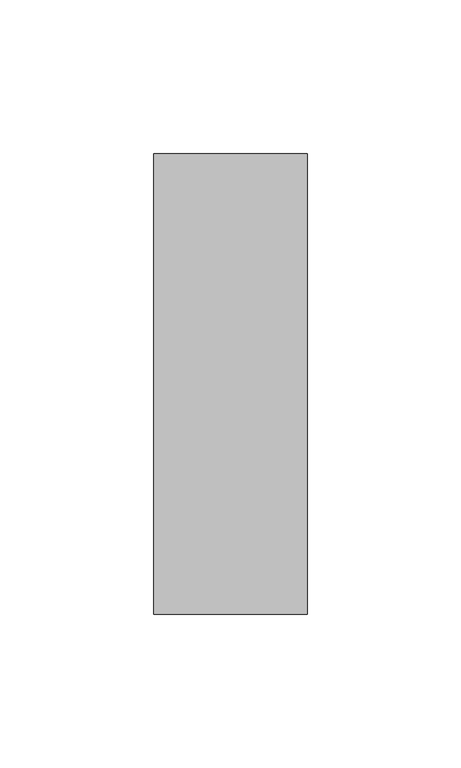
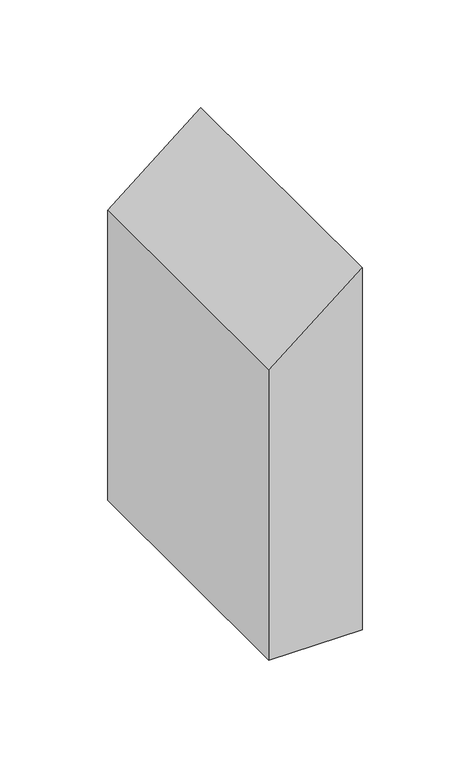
"""IFC4 building model written with IfcOpenShell, lengths in millimetres: member geometry, Прямоугольный импост : 50 x 150 мм."""

import ifcopenshell
import ifcopenshell.guid

model = None  # the IFC model being written
_history = None  # IfcOwnerHistory: only IFC2X3 demands one
_inside = {}  # id of a spatial element -> (the spatial element, [elements in it])
_under = {}  # id of a project, library or spatial element -> (it, [spatial elements below it])
_declared = {}  # id of a project -> (the project, [libraries it declares])
_typed = {}  # id of a type object -> (the type object, [elements of that type])
_made_of = {}  # id of a material, layer set ... -> (it, [elements and type objects made of it])


def new_model(schema):
    """Start an empty IFC model of exactly this schema.

    Asked for "IFC4X3", IfcOpenShell would pick the latest addendum, in which some entities
    have other attributes; the version numbers below select the first issue.
    IFC2X3 requires an IfcOwnerHistory on every rooted entity: one is made here for all.
    """
    global model, _history
    if schema == "IFC4X3":
        model = ifcopenshell.file(schema_version=(4, 3, 0, 0))
    else:
        model = ifcopenshell.file(schema=schema)
    _inside.clear()
    _under.clear()
    _declared.clear()
    _typed.clear()
    _made_of.clear()
    _history = None
    if model.schema == "IFC2X3":
        org = make("IfcOrganization", Name="unknown")
        user = make(
            "IfcPersonAndOrganization",
            ThePerson=make("IfcPerson", FamilyName="unknown"),
            TheOrganization=org,
        )
        app = make(
            "IfcApplication",
            ApplicationDeveloper=org,
            Version="unknown",
            ApplicationFullName="unknown",
            ApplicationIdentifier="unknown",
        )
        _history = make(
            "IfcOwnerHistory",
            OwningUser=user,
            OwningApplication=app,
            ChangeAction="ADDED",
            CreationDate=0,
        )
    return model


def make(cls, **values):
    """One entity of the class cls with the attributes given. An attribute that is None is left unset."""
    return model.create_entity(
        cls, **{name: value for name, value in values.items() if value is not None}
    )


def rooted(cls, **values):
    """An entity with a GlobalId (a new one), such as an element, a storey or a relation."""
    return make(cls, GlobalId=ifcopenshell.guid.new(), OwnerHistory=_history, **values)


def si_unit(unit_type, name, prefix=None):
    """IfcSIUnit, for example si_unit("LENGTHUNIT", "METRE", prefix="MILLI")."""
    return make("IfcSIUnit", UnitType=unit_type, Prefix=prefix, Name=name)


def assignment(units):
    """IfcUnitAssignment: the units of a project."""
    return None if units is None else make("IfcUnitAssignment", Units=units)


def point(xyz):
    """IfcCartesianPoint."""
    return None if xyz is None else make("IfcCartesianPoint", Coordinates=xyz)


def direction(xyz):
    """IfcDirection."""
    return None if xyz is None else make("IfcDirection", DirectionRatios=xyz)


def frame(location, z_axis=None, x_axis=None):
    """IfcAxis2Placement3D, a coordinate frame: its origin and axes. An axis left out is left unset."""
    return make(
        "IfcAxis2Placement3D",
        Location=point(location),
        Axis=direction(z_axis),
        RefDirection=direction(x_axis),
    )


def origin():
    """The frame at (0, 0, 0) with its axes left unset."""
    return frame((0.0, 0.0, 0.0))


def place(relative_to, where):
    """IfcLocalPlacement: puts the frame where relative to a parent placement (None: the world)."""
    return make(
        "IfcLocalPlacement", PlacementRelTo=relative_to, RelativePlacement=where
    )


def context(
    kind, dimensions, precision=None, world=None, true_north=None, identifier=None
):
    """IfcGeometricRepresentationContext, for example the 3D "Model" context."""
    return make(
        "IfcGeometricRepresentationContext",
        ContextIdentifier=identifier,
        ContextType=kind,
        CoordinateSpaceDimension=dimensions,
        Precision=precision,
        WorldCoordinateSystem=world,
        TrueNorth=true_north,
    )


def project(units=None, contexts=None):
    """IfcProject with its units and contexts."""
    return rooted(
        "IfcProject",
        Name="project",
        RepresentationContexts=contexts,
        UnitsInContext=assignment(units),
    )


def spatial(cls, under=None, at=None, **own):
    """A site, building, storey or space (cls), placed at a placement, below another one or the project."""
    s = rooted(cls, ObjectPlacement=at, **own)
    if under is not None:
        _under.setdefault(under.id(), (under, []))[1].append(s)
    return s


def polyline(points):
    """IfcPolyline through the points."""
    return make("IfcPolyline", Points=[point(p) for p in points])


def outline(outer, holes=None, kind="AREA"):
    """IfcArbitraryClosedProfileDef: a profile drawn as a closed curve; with holes, ...WithVoids."""
    if holes is None:
        return make("IfcArbitraryClosedProfileDef", ProfileType=kind, OuterCurve=outer)
    return make(
        "IfcArbitraryProfileDefWithVoids",
        ProfileType=kind,
        OuterCurve=outer,
        InnerCurves=holes,
    )


def extrude(swept, where, along, depth):
    """IfcExtrudedAreaSolid: the profile swept, set in the frame where, extruded along a direction by depth."""
    return make(
        "IfcExtrudedAreaSolid",
        SweptArea=swept,
        Position=where,
        ExtrudedDirection=direction(along),
        Depth=depth,
    )


def shape(context_of_items, identifier, shape_type, items):
    """IfcShapeRepresentation: the items that make up one representation, for example the "Body"."""
    return make(
        "IfcShapeRepresentation",
        ContextOfItems=context_of_items,
        RepresentationIdentifier=identifier,
        RepresentationType=shape_type,
        Items=items,
    )


def source(mapping_origin, context_of_items, identifier, shape_type, items):
    """IfcRepresentationMap: a shape defined once, which mapped items show again and again."""
    return make(
        "IfcRepresentationMap",
        MappingOrigin=mapping_origin,
        MappedRepresentation=shape(context_of_items, identifier, shape_type, items),
    )


def transform(
    local_origin,
    x_axis=None,
    y_axis=None,
    z_axis=None,
    scale=None,
    scale2=None,
    scale3=None,
    uniform=True,
):
    """IfcCartesianTransformationOperator3D, or its non-uniform kind. x_axis, y_axis, z_axis: its Axis1, 2, 3."""
    if uniform:
        return make(
            "IfcCartesianTransformationOperator3D",
            Axis1=direction(x_axis),
            Axis2=direction(y_axis),
            LocalOrigin=point(local_origin),
            Scale=scale,
            Axis3=direction(z_axis),
        )
    return make(
        "IfcCartesianTransformationOperator3DnonUniform",
        Axis1=direction(x_axis),
        Axis2=direction(y_axis),
        LocalOrigin=point(local_origin),
        Scale=scale,
        Axis3=direction(z_axis),
        Scale2=scale2,
        Scale3=scale3,
    )


def mapped(mapping_source, mapping_target):
    """IfcMappedItem: shows the shape of a source again, moved by a transform."""
    return make(
        "IfcMappedItem", MappingSource=mapping_source, MappingTarget=mapping_target
    )


def made_of(thing, what):
    """Note that an element or type object is made of a material, layer set ...; save() writes the relation."""
    if what is not None:
        _made_of.setdefault(what.id(), (what, []))[1].append(thing)
    return thing


def element(
    cls,
    number,
    at=None,
    inside=None,
    cuts=None,
    type_object=None,
    material=None,
    context=None,
    identifier="Body",
    shape_type=None,
    held_by="IfcProductDefinitionShape",
    body=None,
    shapes=None,
    **own,
):
    """One element of the class cls, such as IfcWall. Its Tag is "e" and its number.

    at: its placement. inside: the storey or other place that contains it. cuts: it is an
    opening in that element (IfcRelVoidsElement). A single representation is given by context,
    identifier, shape_type and body (its items); several are given by shapes. held_by: the class
    of the entity that holds the representations. save() writes the other relations.
    """
    e = rooted(cls, Tag="e%d" % number, ObjectPlacement=at, **own)
    if body is not None:
        shapes = [shape(context, identifier, shape_type, body)]
    if shapes is not None:
        e.Representation = make(held_by, Representations=shapes)
    if inside is not None:
        _inside.setdefault(inside.id(), (inside, []))[1].append(e)
    if cuts is not None:
        rooted(
            "IfcRelVoidsElement", RelatingBuildingElement=cuts, RelatedOpeningElement=e
        )
    if type_object is not None:
        _typed.setdefault(type_object.id(), (type_object, []))[1].append(e)
    return made_of(e, material)


def aggregate(whole, parts):
    """IfcRelAggregates: a whole, such as a stair, and the parts it consists of."""
    return rooted("IfcRelAggregates", RelatingObject=whole, RelatedObjects=parts)


def save(model, path):
    """Write the relations noted so far, then the file.

    IfcRelAggregates (storeys below a building ...), IfcRelContainedInSpatialStructure (elements
    in a storey), IfcRelDefinesByType, IfcRelAssociatesMaterial and IfcRelDeclares: one each for
    every whole, place, type object, material and project.
    """
    for whole, parts in _under.values():
        aggregate(whole, parts)
    for where, things in _inside.values():
        rooted(
            "IfcRelContainedInSpatialStructure",
            RelatedElements=things,
            RelatingStructure=where,
        )
    for kind, things in _typed.values():
        rooted("IfcRelDefinesByType", RelatedObjects=things, RelatingType=kind)
    for what, things in _made_of.values():
        rooted("IfcRelAssociatesMaterial", RelatedObjects=things, RelatingMaterial=what)
    for by, libraries in _declared.values():
        rooted("IfcRelDeclares", RelatingContext=by, RelatedDefinitions=libraries)
    model.write(path)


def member_da113fcf(model_context):
    return source(origin(), model_context, "Body", "SweptSolid", [
        extrude(outline(polyline([(0.0, 0.0), (-40.6376387, -50.0), (-205.2769926, -50.0), (-205.2769926, 0.0), (0.0, 0.0)])), frame((0.0, -75.0, 0.0), z_axis=(0.0, 1.0, 0.0), x_axis=(0.0, 0.0, 1.0)), (0.0, 0.0, 1.0), 150.0),
    ])


if __name__ == "__main__":
    model = new_model("IFC4")
    model_context = context("Model", 3, world=origin())
    ifc_project = project(units=[si_unit("LENGTHUNIT", "METRE", prefix="MILLI")], contexts=[model_context])
    site = spatial("IfcSite", under=ifc_project)
    building = spatial("IfcBuilding", under=site)
    placement = place(None, origin())
    member_shape = member_da113fcf(model_context)
    element("IfcMember", 1, ObjectType="Прямоугольный импост : 50 x 150 мм", at=placement, inside=building, context=model_context, shape_type="MappedRepresentation", body=[
        mapped(member_shape, transform((0.0, 0.0, 0.0), x_axis=(1.0, 0.0, 0.0), y_axis=(0.0, 1.0, 0.0), z_axis=(0.0, 0.0, 1.0))),
    ])
    save(model, "model.ifc")
